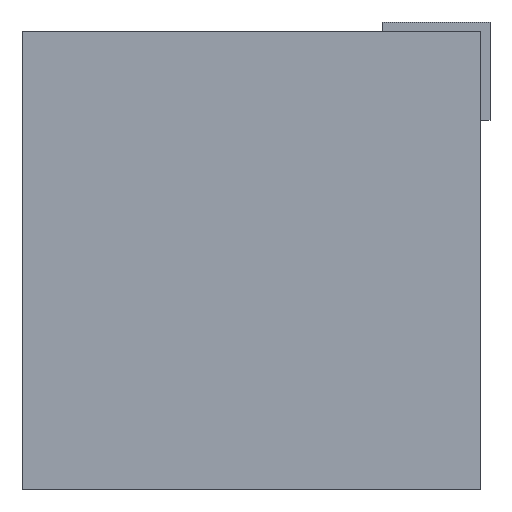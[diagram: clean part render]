
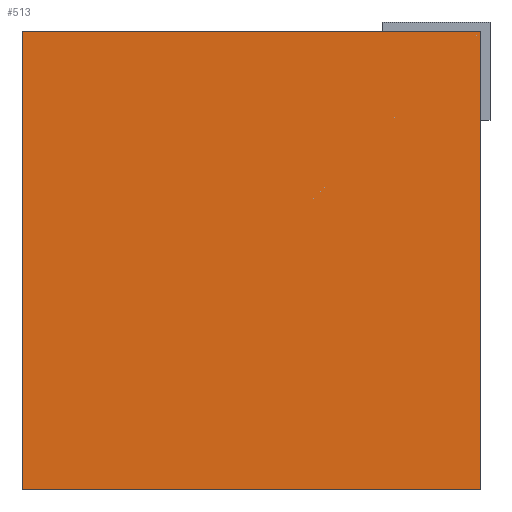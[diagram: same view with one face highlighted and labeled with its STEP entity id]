
A CAD part, left-side view. The second image highlights one B-rep face of the part: STEP entity #513.
In plain terms, the highlighted planar face has unit normal (-1, 0, 0).
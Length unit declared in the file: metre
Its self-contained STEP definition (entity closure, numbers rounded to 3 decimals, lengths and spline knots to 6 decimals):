
#63=ORIENTED_EDGE('',*,*,#194,.F.);
#64=ORIENTED_EDGE('',*,*,#182,.F.);
#65=ORIENTED_EDGE('',*,*,#172,.T.);
#66=ORIENTED_EDGE('',*,*,#192,.T.);
#172=EDGE_CURVE('',#232,#242,#290,.T.);
#182=EDGE_CURVE('',#232,#252,#300,.T.);
#192=EDGE_CURVE('',#242,#258,#308,.T.);
#194=EDGE_CURVE('',#252,#258,#310,.T.);
#232=VERTEX_POINT('',#721);
#242=VERTEX_POINT('',#741);
#252=VERTEX_POINT('',#764);
#258=VERTEX_POINT('',#781);
#290=LINE('',#742,#354);
#300=LINE('',#763,#364);
#308=LINE('',#782,#372);
#310=LINE('',#785,#374);
#354=VECTOR('',#598,1.);
#364=VECTOR('',#612,1.);
#372=VECTOR('',#628,1.);
#374=VECTOR('',#632,1.);
#415=EDGE_LOOP('',(#63,#64,#65,#66));
#453=FACE_BOUND('',#415,.T.);
#488=PLANE('',#556);
#513=ADVANCED_FACE('',(#453),#488,.T.);
#556=AXIS2_PLACEMENT_3D('',#784,#630,#631);
#598=DIRECTION('',(0.,1.,0.));
#612=DIRECTION('',(0.,0.,-1.));
#628=DIRECTION('',(0.,0.,-1.));
#630=DIRECTION('',(-1.,0.,0.));
#631=DIRECTION('',(0.,-1.,0.));
#632=DIRECTION('',(0.,1.,0.));
#721=CARTESIAN_POINT('',(-0.1,0.,0.14));
#741=CARTESIAN_POINT('',(-0.1,0.14,0.14));
#742=CARTESIAN_POINT('',(-0.1,0.07,0.14));
#763=CARTESIAN_POINT('',(-0.1,0.,0.14));
#764=CARTESIAN_POINT('',(-0.1,0.,0.));
#781=CARTESIAN_POINT('',(-0.1,0.14,0.));
#782=CARTESIAN_POINT('',(-0.1,0.14,0.14));
#784=CARTESIAN_POINT('',(-0.1,0.07,0.14));
#785=CARTESIAN_POINT('',(-0.1,0.07,0.));
